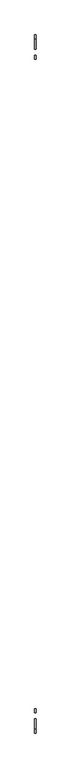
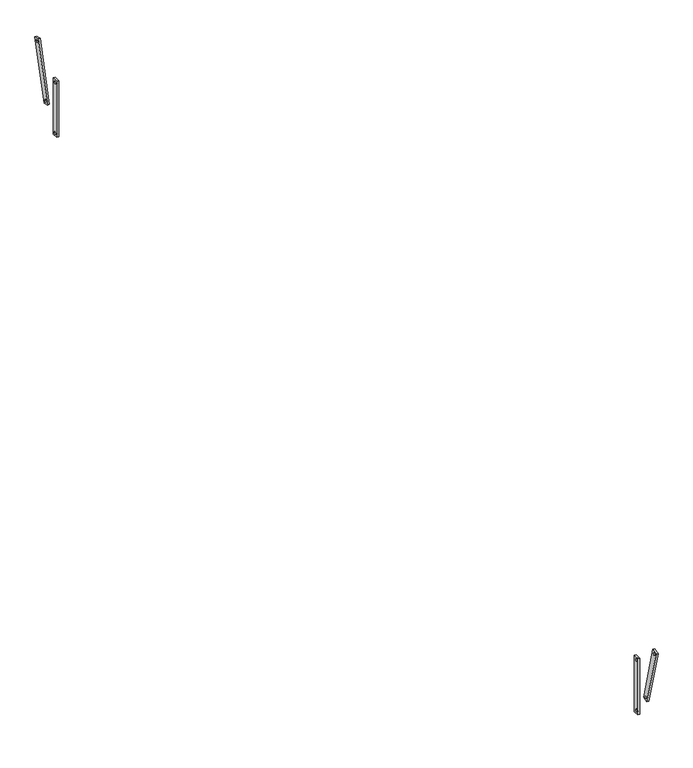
"""IFC4 building model written with IfcOpenShell, lengths in millimetres: proxy geometry, Modelos genéricos 290 : Modelos genéricos 278."""

from ifc_helpers import new_model, si_unit, point, frame, frame_2d, origin, place, context, project, spatial, polyline, circle_curve, trimmed, segment, composite_curve, outline, extrude, source, transform, mapped, element, save


def generic_models_062e112d(model_context):
    return source(origin(), model_context, "Body", "SweptSolid", [
        extrude(outline(polyline([(5318.6238165, 2800.0), (5318.6238165, 3200.0), (5358.6238165, 3200.0), (5358.6238165, 2800.0), (5318.6238165, 2800.0)]), holes=[composite_curve([segment(trimmed(circle_curve(frame_2d((5338.6238165, 3180.0)), 7.5), [point((5346.1238165, 3180.0))], [point((5331.1238165, 3180.0))], True, "CARTESIAN"), True, "CONTINUOUS"), segment(trimmed(circle_curve(frame_2d((5338.6238165, 3180.0)), 7.5), [point((5331.1238165, 3180.0))], [point((5346.1238165, 3180.0))], True, "CARTESIAN"), True, "CONTINUOUS")], self_intersect=False), composite_curve([segment(trimmed(circle_curve(frame_2d((5338.6238165, 2820.0)), 7.5), [point((5346.1238165, 2820.0))], [point((5331.1238165, 2820.0))], True, "CARTESIAN"), True, "CONTINUOUS"), segment(trimmed(circle_curve(frame_2d((5338.6238165, 2820.0)), 7.5), [point((5331.1238165, 2820.0))], [point((5346.1238165, 2820.0))], True, "CARTESIAN"), True, "CONTINUOUS")], self_intersect=False)]), frame((9210.7472467, 0.0, 0.0), z_axis=(1.0, 0.0, 0.0), x_axis=(0.0, 1.0, 0.0)), (0.0, 0.0, 1.0), 12.7),
        extrude(outline(polyline([(5424.7907615, 2966.5419368), (5533.4947604, 3372.2307838), (5572.1317934, 3361.878022), (5463.4277945, 2956.1891749), (5424.7907615, 2966.5419368)]), holes=[composite_curve([segment(trimmed(circle_curve(frame_2d((5547.636896, 3347.7358864)), 7.5), [point((5554.8813397, 3345.7947435))], [point((5540.3924523, 3349.6770292))], True, "CARTESIAN"), True, "CONTINUOUS"), segment(trimmed(circle_curve(frame_2d((5547.636896, 3347.7358864)), 7.5), [point((5540.3924523, 3349.6770292))], [point((5554.8813397, 3345.7947435))], True, "CARTESIAN"), True, "CONTINUOUS")], self_intersect=False), composite_curve([segment(trimmed(circle_curve(frame_2d((5449.2856589, 2980.6840724)), 7.5), [point((5456.5301026, 2978.7429295))], [point((5442.0412152, 2982.6252152))], True, "CARTESIAN"), True, "CONTINUOUS"), segment(trimmed(circle_curve(frame_2d((5449.2856589, 2980.6840724)), 7.5), [point((5442.0412152, 2982.6252152))], [point((5456.5301026, 2978.7429295))], True, "CARTESIAN"), True, "CONTINUOUS")], self_intersect=False)]), frame((9210.7472467, 0.0, 0.0), z_axis=(1.0, 0.0, 0.0), x_axis=(0.0, 1.0, 0.0)), (0.0, 0.0, 1.0), 12.7),
        extrude(outline(polyline([(-1421.3761835, 2800.0), (-1461.3761835, 2800.0), (-1461.3761835, 3200.0), (-1421.3761835, 3200.0), (-1421.3761835, 2800.0)]), holes=[composite_curve([segment(trimmed(circle_curve(frame_2d((-1441.3761835, 3180.0)), 7.5), [point((-1448.8761835, 3180.0))], [point((-1433.8761835, 3180.0))], True, "CARTESIAN"), True, "CONTINUOUS"), segment(trimmed(circle_curve(frame_2d((-1441.3761835, 3180.0)), 7.5), [point((-1433.8761835, 3180.0))], [point((-1448.8761835, 3180.0))], True, "CARTESIAN"), True, "CONTINUOUS")], self_intersect=False), composite_curve([segment(trimmed(circle_curve(frame_2d((-1441.3761835, 2820.0)), 7.5), [point((-1448.8761835, 2820.0))], [point((-1433.8761835, 2820.0))], True, "CARTESIAN"), True, "CONTINUOUS"), segment(trimmed(circle_curve(frame_2d((-1441.3761835, 2820.0)), 7.5), [point((-1433.8761835, 2820.0))], [point((-1448.8761835, 2820.0))], True, "CARTESIAN"), True, "CONTINUOUS")], self_intersect=False)]), frame((9210.7472467, 0.0, 0.0), z_axis=(1.0, 0.0, 0.0), x_axis=(0.0, 1.0, 0.0)), (0.0, 0.0, 1.0), 12.7),
        extrude(outline(polyline([(-1527.5431285, 2966.5419368), (-1566.1801615, 2956.1891749), (-1674.8841605, 3361.878022), (-1636.2471274, 3372.2307838), (-1527.5431285, 2966.5419368)]), holes=[composite_curve([segment(trimmed(circle_curve(frame_2d((-1650.389263, 3347.7358864)), 7.5), [point((-1657.6337067, 3345.7947435))], [point((-1643.1448193, 3349.6770292))], True, "CARTESIAN"), True, "CONTINUOUS"), segment(trimmed(circle_curve(frame_2d((-1650.389263, 3347.7358864)), 7.5), [point((-1643.1448193, 3349.6770292))], [point((-1657.6337067, 3345.7947435))], True, "CARTESIAN"), True, "CONTINUOUS")], self_intersect=False), composite_curve([segment(trimmed(circle_curve(frame_2d((-1552.0380259, 2980.6840724)), 7.5), [point((-1559.2824696, 2978.7429295))], [point((-1544.7935822, 2982.6252152))], True, "CARTESIAN"), True, "CONTINUOUS"), segment(trimmed(circle_curve(frame_2d((-1552.0380259, 2980.6840724)), 7.5), [point((-1544.7935822, 2982.6252152))], [point((-1559.2824696, 2978.7429295))], True, "CARTESIAN"), True, "CONTINUOUS")], self_intersect=False)]), frame((9210.7472467, 0.0, 0.0), z_axis=(1.0, 0.0, 0.0), x_axis=(0.0, 1.0, 0.0)), (0.0, 0.0, 1.0), 12.7),
    ])


if __name__ == "__main__":
    model = new_model("IFC4")
    model_context = context("Model", 3, world=origin())
    ifc_project = project(units=[si_unit("LENGTHUNIT", "METRE", prefix="MILLI")], contexts=[model_context])
    site = spatial("IfcSite", under=ifc_project)
    building = spatial("IfcBuilding", under=site)
    placement = place(None, origin())
    generic_models_shape = generic_models_062e112d(model_context)
    element("IfcBuildingElementProxy", 1, Name="Modelos genéricos 290 : Modelos genéricos 278", ObjectType="Modelos genéricos 290 : Modelos genéricos 278", at=placement, inside=building, context=model_context, shape_type="MappedRepresentation", body=[
        mapped(generic_models_shape, transform((0.0, 0.0, 0.0), x_axis=(1.0, 0.0, 0.0), y_axis=(0.0, 1.0, 0.0), z_axis=(0.0, 0.0, 1.0))),
    ])
    save(model, "model.ifc")
